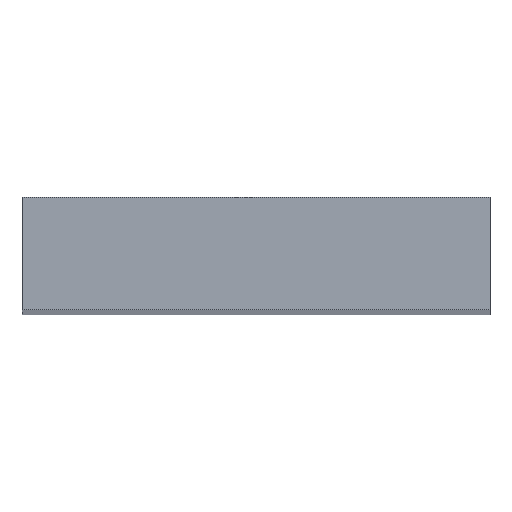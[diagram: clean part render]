
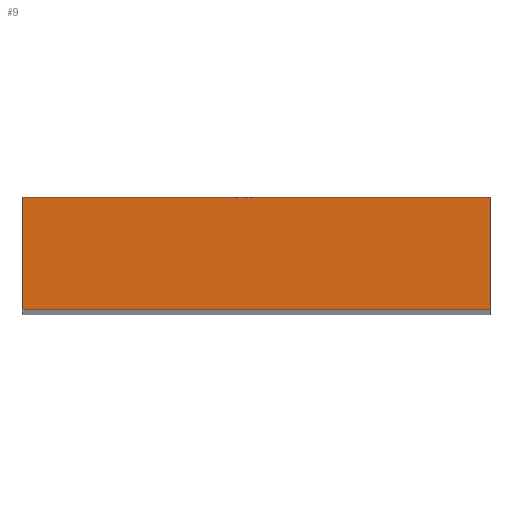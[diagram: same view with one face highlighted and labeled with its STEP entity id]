
A CAD part, top view. The second image highlights one B-rep face of the part: STEP entity #9.
In plain terms, the highlighted planar face has unit normal (0, 0, 1).
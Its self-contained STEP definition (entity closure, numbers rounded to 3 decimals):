
#2 = ORIENTED_EDGE ( 'NONE', *, *, #12, .T. ) ;
#9 = ADVANCED_FACE ( 'NONE', ( #161 ), #44, .T. ) ;
#11 = VERTEX_POINT ( 'NONE', #49 ) ;
#12 = EDGE_CURVE ( 'NONE', #19, #11, #50, .T. ) ;
#17 = VERTEX_POINT ( 'NONE', #63 ) ;
#19 = VERTEX_POINT ( 'NONE', #195 ) ;
#30 = EDGE_LOOP ( 'NONE', ( #138, #2, #232, #236 ) ) ;
#44 = PLANE ( 'NONE',  #164 ) ;
#45 = CARTESIAN_POINT ( 'NONE',  ( 0., 0., 150. ) ) ;
#46 = DIRECTION ( 'NONE',  ( 0., 0., 1. ) ) ;
#48 = DIRECTION ( 'NONE',  ( 1., 0., 0. ) ) ;
#49 = CARTESIAN_POINT ( 'NONE',  ( -25., 6., 150. ) ) ;
#50 = LINE ( 'NONE', #197, #200 ) ;
#54 = DIRECTION ( 'NONE',  ( -1., 0., 0. ) ) ;
#56 = EDGE_CURVE ( 'NONE', #11, #17, #89, .T. ) ;
#63 = CARTESIAN_POINT ( 'NONE',  ( -25., -6., 150. ) ) ;
#74 = EDGE_CURVE ( 'NONE', #231, #19, #96, .T. ) ;
#89 = LINE ( 'NONE', #90, #189 ) ;
#90 = CARTESIAN_POINT ( 'NONE',  ( -25., 6., 150. ) ) ;
#92 = DIRECTION ( 'NONE',  ( 0., -1., 0. ) ) ;
#96 = LINE ( 'NONE', #97, #169 ) ;
#97 = CARTESIAN_POINT ( 'NONE',  ( 25., 6., 150. ) ) ;
#100 = DIRECTION ( 'NONE',  ( 0., 1., 0. ) ) ;
#117 = LINE ( 'NONE', #118, #219 ) ;
#118 = CARTESIAN_POINT ( 'NONE',  ( -25., -6., 150. ) ) ;
#119 = DIRECTION ( 'NONE',  ( 1., 0., 0. ) ) ;
#124 = CARTESIAN_POINT ( 'NONE',  ( 25., -6., 150. ) ) ;
#134 = EDGE_CURVE ( 'NONE', #17, #231, #117, .T. ) ;
#138 = ORIENTED_EDGE ( 'NONE', *, *, #74, .T. ) ;
#161 = FACE_OUTER_BOUND ( 'NONE', #30, .T. ) ;
#164 = AXIS2_PLACEMENT_3D ( 'NONE', #45, #46, #48 ) ;
#169 = VECTOR ( 'NONE', #100, 1000. ) ;
#189 = VECTOR ( 'NONE', #92, 1000. ) ;
#195 = CARTESIAN_POINT ( 'NONE',  ( 25., 6., 150. ) ) ;
#197 = CARTESIAN_POINT ( 'NONE',  ( -25., 6., 150. ) ) ;
#200 = VECTOR ( 'NONE', #54, 1000. ) ;
#219 = VECTOR ( 'NONE', #119, 1000. ) ;
#231 = VERTEX_POINT ( 'NONE', #124 ) ;
#232 = ORIENTED_EDGE ( 'NONE', *, *, #56, .T. ) ;
#236 = ORIENTED_EDGE ( 'NONE', *, *, #134, .T. ) ;
